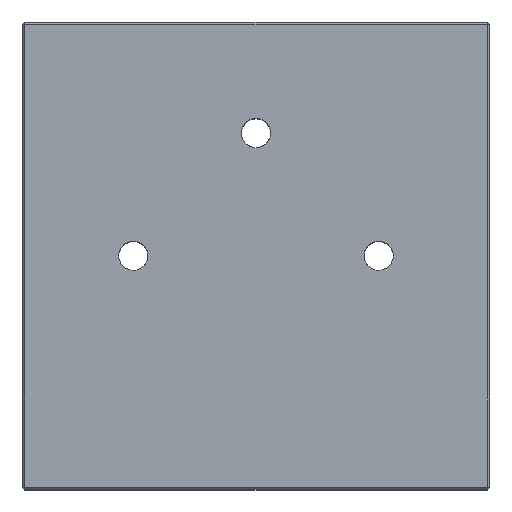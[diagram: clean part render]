
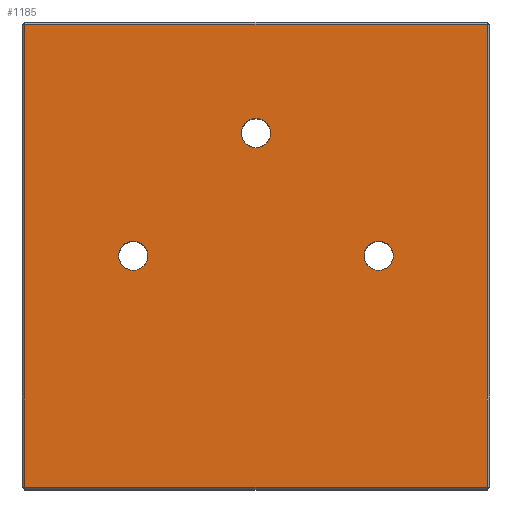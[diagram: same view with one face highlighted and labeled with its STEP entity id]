
A CAD part, top view. The second image highlights one B-rep face of the part: STEP entity #1185.
In plain terms, the highlighted planar face has unit normal (0, 0, 1).
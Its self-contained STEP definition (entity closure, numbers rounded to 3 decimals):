
#82=FACE_BOUND('',#269,.T.);
#83=FACE_BOUND('',#270,.T.);
#84=FACE_BOUND('',#271,.T.);
#113=PLANE('',#1326);
#193=FACE_OUTER_BOUND('',#268,.T.);
#268=EDGE_LOOP('',(#1070,#1071,#1072,#1073));
#269=EDGE_LOOP('',(#1074));
#270=EDGE_LOOP('',(#1075));
#271=EDGE_LOOP('',(#1076));
#339=LINE('',#2395,#409);
#343=LINE('',#2403,#413);
#344=LINE('',#2405,#414);
#345=LINE('',#2407,#415);
#409=VECTOR('',#1605,10.);
#413=VECTOR('',#1615,10.);
#414=VECTOR('',#1618,10.);
#415=VECTOR('',#1621,10.);
#450=CIRCLE('',#1263,1.25);
#452=CIRCLE('',#1267,1.25);
#455=CIRCLE('',#1273,1.25);
#526=VERTEX_POINT('',#1949);
#528=VERTEX_POINT('',#1957);
#553=VERTEX_POINT('',#2220);
#570=VERTEX_POINT('',#2364);
#574=VERTEX_POINT('',#2382);
#575=VERTEX_POINT('',#2389);
#576=VERTEX_POINT('',#2397);
#648=EDGE_CURVE('',#526,#526,#450,.T.);
#652=EDGE_CURVE('',#528,#528,#452,.T.);
#680=EDGE_CURVE('',#553,#553,#455,.T.);
#736=EDGE_CURVE('',#570,#575,#339,.T.);
#740=EDGE_CURVE('',#575,#576,#343,.T.);
#741=EDGE_CURVE('',#576,#574,#344,.T.);
#742=EDGE_CURVE('',#574,#570,#345,.T.);
#1070=ORIENTED_EDGE('',*,*,#736,.F.);
#1071=ORIENTED_EDGE('',*,*,#742,.F.);
#1072=ORIENTED_EDGE('',*,*,#741,.F.);
#1073=ORIENTED_EDGE('',*,*,#740,.F.);
#1074=ORIENTED_EDGE('',*,*,#648,.T.);
#1075=ORIENTED_EDGE('',*,*,#652,.T.);
#1076=ORIENTED_EDGE('',*,*,#680,.T.);
#1185=ADVANCED_FACE('',(#193,#82,#83,#84),#113,.T.);
#1263=AXIS2_PLACEMENT_3D('',#1950,#1460,#1461);
#1267=AXIS2_PLACEMENT_3D('',#1958,#1470,#1471);
#1273=AXIS2_PLACEMENT_3D('',#2221,#1485,#1486);
#1326=AXIS2_PLACEMENT_3D('',#2413,#1630,#1631);
#1460=DIRECTION('center_axis',(0.,0.,-1.));
#1461=DIRECTION('ref_axis',(1.,0.,0.));
#1470=DIRECTION('center_axis',(0.,0.,-1.));
#1471=DIRECTION('ref_axis',(1.,0.,0.));
#1485=DIRECTION('center_axis',(0.,0.,-1.));
#1486=DIRECTION('ref_axis',(1.,0.,0.));
#1605=DIRECTION('',(0.,1.,0.));
#1615=DIRECTION('',(1.,0.,0.));
#1618=DIRECTION('',(0.,-1.,0.));
#1621=DIRECTION('',(-1.,0.,0.));
#1630=DIRECTION('center_axis',(0.,0.,1.));
#1631=DIRECTION('ref_axis',(1.,0.,0.));
#1949=CARTESIAN_POINT('',(-11.75,0.,25.));
#1950=CARTESIAN_POINT('Origin',(-10.5,0.,25.));
#1957=CARTESIAN_POINT('',(-1.25,10.5,25.));
#1958=CARTESIAN_POINT('Origin',(0.,10.5,25.));
#2220=CARTESIAN_POINT('',(9.25,0.,25.));
#2221=CARTESIAN_POINT('Origin',(10.5,0.,25.));
#2364=CARTESIAN_POINT('',(-19.8,-19.8,25.));
#2382=CARTESIAN_POINT('',(19.8,-19.8,25.));
#2389=CARTESIAN_POINT('',(-19.8,19.8,25.));
#2395=CARTESIAN_POINT('',(-19.8,10.,25.));
#2397=CARTESIAN_POINT('',(19.8,19.8,25.));
#2403=CARTESIAN_POINT('',(10.,19.8,25.));
#2405=CARTESIAN_POINT('',(19.8,-10.,25.));
#2407=CARTESIAN_POINT('',(-10.,-19.8,25.));
#2413=CARTESIAN_POINT('Origin',(0.,0.,25.));
